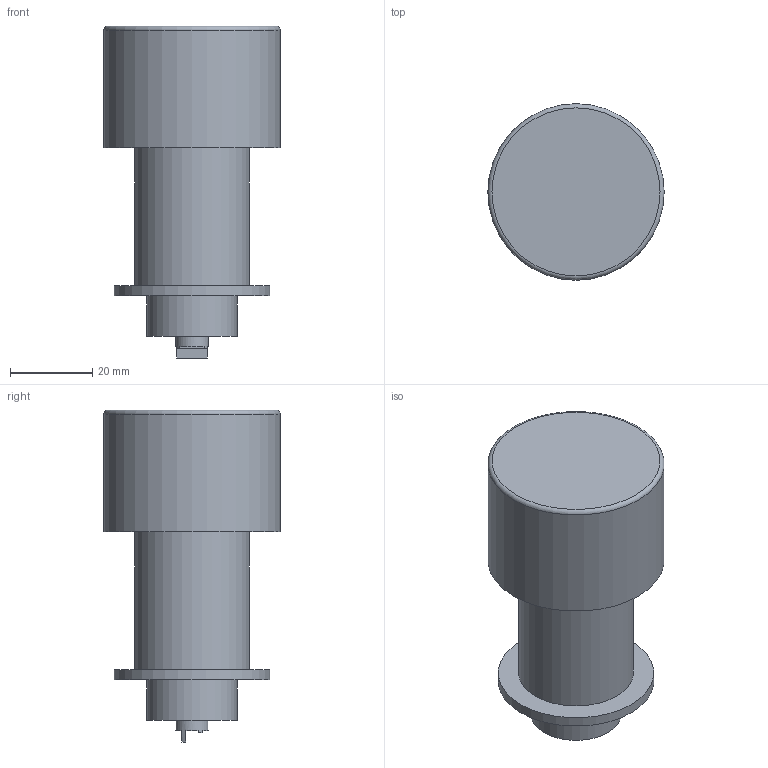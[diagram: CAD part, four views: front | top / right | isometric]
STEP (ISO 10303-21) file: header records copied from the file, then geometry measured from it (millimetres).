
FILE_DESCRIPTION( ( 'Unknown' ), '1' );
FILE_NAME( 'F:/方头/外形尺寸图/电机/3D/光栅电机/14mm光栅电机模型（国产编码器）X.stp', 'Unknown', ( 'Unknown' ), ( 'Unknown' ), 'XStep 1.0', 'Unknown', ' ' );
FILE_SCHEMA( ( 'CONFIG_CONTROL_DESIGN' ) );
Length unit declared in the file: millimetre
Products named in the file (1): 1
Bounding box: 43 x 43 x 80.96 mm (x, y, z)
Volume: 70541.6 mm3; surface area: 11948.3 mm2
Topology: 1 solids, 1 shells, 20 faces, 43 edges, 29 vertices
Faces by surface type: plane 14, cylinder 5, torus 1
Full cylindrical faces by diameter (mm): 8 x1, 22 x1, 28 x1, 38 x1, 43 x1
Entity records: 540 total; most frequent: DIRECTION 94, CARTESIAN_POINT 81, ORIENTED_EDGE 68, AXIS2_PLACEMENT_3D 39, EDGE_CURVE 34, EDGE_LOOP 30, FACE_OUTER_BOUND 26, VERTEX_POINT 26
